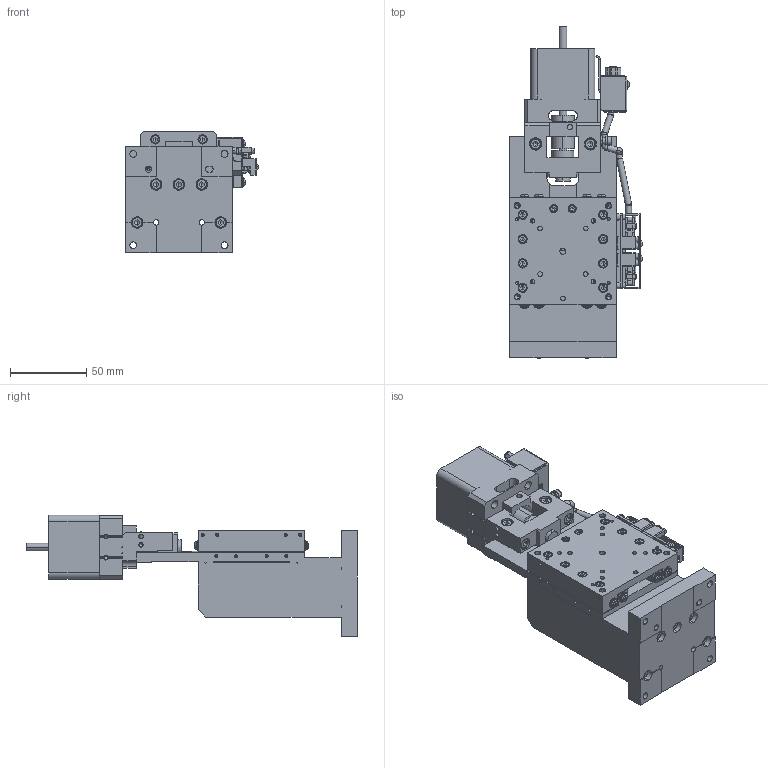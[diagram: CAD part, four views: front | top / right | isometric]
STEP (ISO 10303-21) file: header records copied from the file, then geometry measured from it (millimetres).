
FILE_DESCRIPTION( (''), '2;1');
FILE_NAME ('MVZA07A-X103-R.stp','2021-05-19T13:00:41',(''),(''),'spGate 15.6.6','','');
FILE_SCHEMA (('AUTOMOTIVE_DESIGN'));
Length unit declared in the file: millimetre
Products named in the file (3): Assembly; MVZA07A-X103-R-prt0; MVZA07A-X103-R-prt1
Assembly tree (2 placements, depth 2):
  Assembly
    MVZA07A-X103-R-prt0
    MVZA07A-X103-R-prt1
Bounding box: 87.18 x 218 x 80 mm (x, y, z)
Volume: 412316.9 mm3; surface area: 118090.5 mm2
Topology: 2 solids, 2 shells, 3460 faces, 8593 edges, 5180 vertices
Faces by surface type: plane 1901, cylinder 938, bspline 574, sphere 47
Entity records: 174528 total; most frequent: CARTESIAN_POINT 28356, ORIENTED_EDGE 16822, DIRECTION 15486, COLOUR_RGB 11873, PRESENTATION_STYLE_ASSIGNMENT 11873, STYLED_ITEM 11873, EDGE_CURVE 8411, DRAUGHTING_PRE_DEFINED_CURVE_FONT 8411
